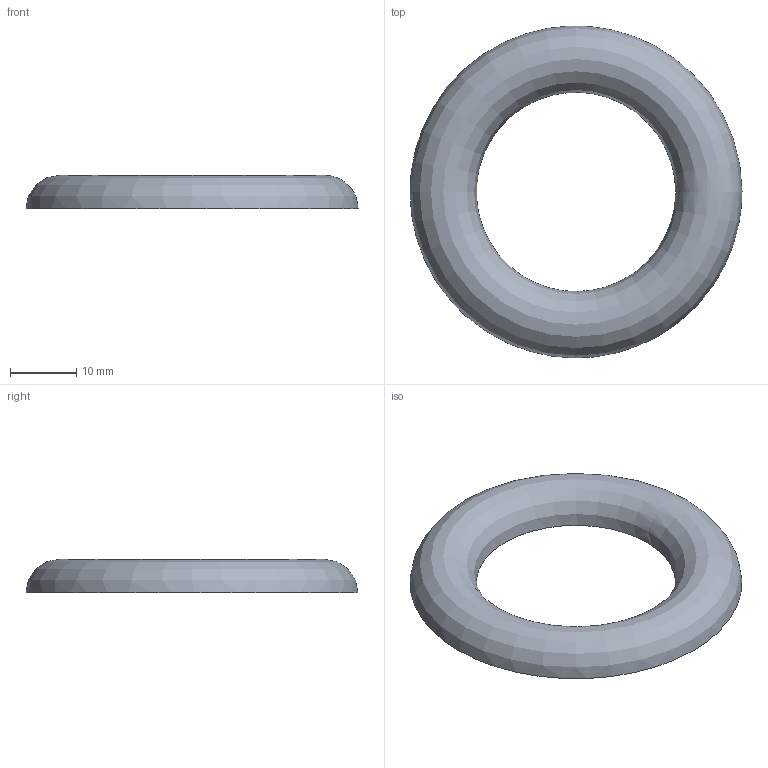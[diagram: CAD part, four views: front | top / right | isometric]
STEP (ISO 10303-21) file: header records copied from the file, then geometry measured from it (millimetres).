
FILE_DESCRIPTION(('step-conformance generated part'),'2;1');
FILE_NAME('torus_ring_nurbs.step','2026-10-12T00:00:00',(''),(''),'step-conformance generate','step-conformance generate','');
FILE_SCHEMA(('AUTOMOTIVE_DESIGN { 1 0 10303 214 1 1 1 1 }'));
Length unit declared in the file: millimetre
Products named in the file (1): torus_ring_nurbs
Bounding box: 50 x 49.97 x 5 mm (x, y, z)
Volume: 4979.8 mm3; surface area: 3235.3 mm2
Topology: 1 solids, 1 shells, 2 faces, 3 edges, 2 vertices
Faces by surface type: plane 1, bspline 1
Entity records: 105 total; most frequent: CARTESIAN_POINT 67, DIRECTION 4, ORIENTED_EDGE 4, EDGE_LOOP 4, AXIS2_PLACEMENT_3D 2, VERTEX_POINT 2, EDGE_CURVE 2, FACE_OUTER_BOUND 2
